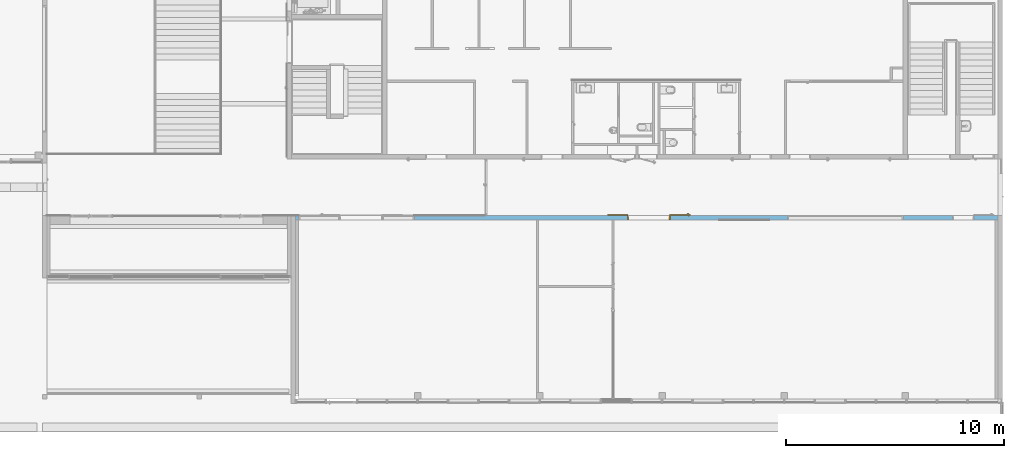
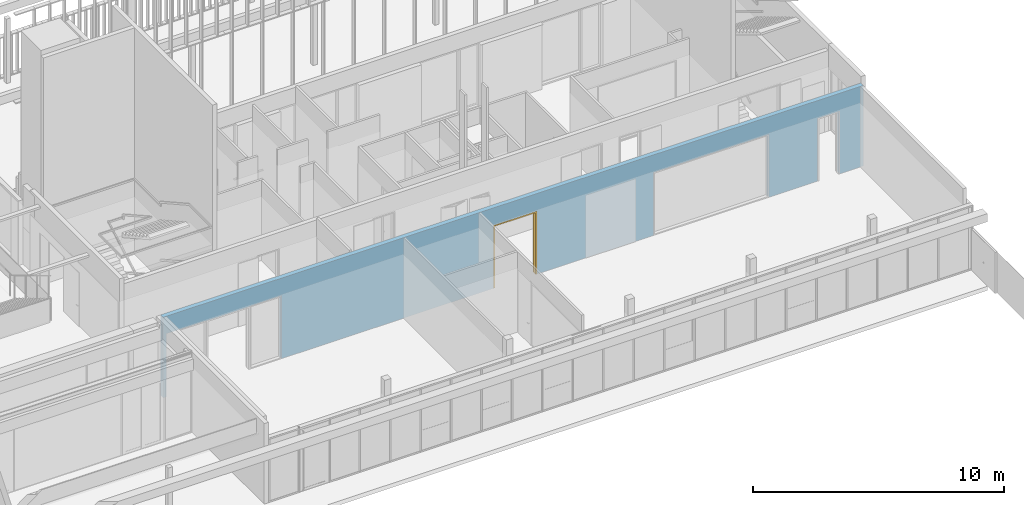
# One storey, part 224 of 240: 1 door, 6 openings, plus 1 element that does not belong to this part.
"""IFC2X3 building model written with IfcOpenShell, lengths in centimetres."""

from ifc_helpers import new_model, entity, si_unit, converted_unit, derived_unit, direction, frame, frame_2d, origin, place, context, subcontext, project, spatial, polyline, rectangle, extrude, clip, bounded_halfspace, faceted_brep, source, transform, mapped, material, material_list, layer, layer_set, layer_usage, type_object, type_shapes, element, fill, save


model = new_model("IFC2X3")

# Units and contexts
model_context = context("Model", 3, precision=0.001, world=origin(), true_north=direction((6.12303176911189e-17, 1.0)))
body_context = subcontext(model_context, "Body", "Model", "MODEL_VIEW")
ifc_project = project(units=[si_unit("LENGTHUNIT", "METRE", prefix="CENTI"), si_unit("AREAUNIT", "SQUARE_METRE"), si_unit("VOLUMEUNIT", "CUBIC_METRE"), converted_unit("PLANEANGLEUNIT", "DEGREE", entity("IfcRatioMeasure", 0.0174532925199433), si_unit("PLANEANGLEUNIT", "RADIAN"), dimensions=[0, 0, 0, 0, 0, 0, 0]), si_unit("MASSUNIT", "GRAM", prefix="KILO"), derived_unit("MASSDENSITYUNIT", [(si_unit("MASSUNIT", "GRAM", prefix="KILO"), 1), (si_unit("LENGTHUNIT", "METRE"), -3)]), si_unit("TIMEUNIT", "SECOND"), si_unit("FREQUENCYUNIT", "HERTZ"), si_unit("THERMODYNAMICTEMPERATUREUNIT", "DEGREE_CELSIUS"), derived_unit("THERMALTRANSMITTANCEUNIT", [(si_unit("MASSUNIT", "GRAM", prefix="KILO"), 1), (si_unit("THERMODYNAMICTEMPERATUREUNIT", "KELVIN"), -1), (si_unit("TIMEUNIT", "SECOND"), -3)]), derived_unit("VOLUMETRICFLOWRATEUNIT", [(si_unit("LENGTHUNIT", "METRE"), 3), (si_unit("TIMEUNIT", "SECOND"), -1)]), si_unit("ELECTRICCURRENTUNIT", "AMPERE"), si_unit("ELECTRICVOLTAGEUNIT", "VOLT"), si_unit("POWERUNIT", "WATT"), si_unit("FORCEUNIT", "NEWTON", prefix="KILO"), si_unit("ILLUMINANCEUNIT", "LUX"), si_unit("LUMINOUSFLUXUNIT", "LUMEN"), si_unit("LUMINOUSINTENSITYUNIT", "CANDELA"), derived_unit("USERDEFINED", [(si_unit("MASSUNIT", "GRAM", prefix="KILO"), -1), (si_unit("LENGTHUNIT", "METRE"), -2), (si_unit("TIMEUNIT", "SECOND"), 3), (si_unit("LUMINOUSFLUXUNIT", "LUMEN"), 1)]), derived_unit("LINEARVELOCITYUNIT", [(si_unit("LENGTHUNIT", "METRE"), 1), (si_unit("TIMEUNIT", "SECOND"), -1)]), si_unit("PRESSUREUNIT", "PASCAL"), derived_unit("USERDEFINED", [(si_unit("LENGTHUNIT", "METRE"), -2), (si_unit("MASSUNIT", "GRAM", prefix="KILO"), 1), (si_unit("TIMEUNIT", "SECOND"), -2)])], contexts=[model_context])

# Site, building, storey
site_placement = place(None, frame((-2781.94577612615, 7442.24238424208, 0.0)))
site = spatial("IfcSite", under=ifc_project, at=site_placement, Name="Default", CompositionType="ELEMENT")
building_placement = place(site_placement, origin())
building = spatial("IfcBuilding", under=site, at=building_placement, CompositionType="ELEMENT")
storey_placement = place(building_placement, origin())
storey = spatial("IfcBuildingStorey", under=building, at=storey_placement, Name="N00 - COO", CompositionType="ELEMENT", Elevation=0.0)

# Wall, openings, door
ifc_material_1 = material(Name="01 - Maçonnerie")
ifc_layer = layer(ifc_material_1, 20.0)
ifc_layer_set = layer_set([ifc_layer], Name="Mur de base:04 - Structure - béton - 20cm")
ifc_layer_usage = layer_usage(ifc_layer_set, "AXIS2", "NEGATIVE", 10.0)
wall_type = type_object("IfcWallType", Name="Mur de base:04 - Structure - béton - 20cm", PredefinedType="STANDARD", material=ifc_layer_set)
wall_placement = place(building_placement, frame((-3629.49987968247, -2200.15656731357, 0.0)))
wall = element("IfcWallStandardCase", 1, at=wall_placement, inside=storey, type_object=wall_type, material=ifc_layer_usage, Name="Mur de base:04 - Structure - béton - 20cm", ObjectType="Mur de base:04 - Structure - béton - 20cm", context=body_context, shape_type="Clipping", body=[
    clip(extrude(rectangle(XDim=3219.49999684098, YDim=19.9999999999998, at=frame_2d((1609.74999842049, -7.63833440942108e-14), x_axis=(-1.0, 0.0))), origin(), (0.0, 0.0, 1.0), 391.0), bounded_halfspace(frame((0.0, -10.0, 391.0), z_axis=(0.0, 0.0, -1.0), x_axis=(0.0, 1.0, 0.0)), True, frame((0.0, -10.0, 391.0)), polyline([(0.0, 0.0), (15.2999999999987, 0.0), (1104.50000207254, 0.0), (1114.50000207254, 0.0), (1450.3, 0.0), (1460.3, 0.0), (3204.19999684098, 0.0), (3219.49999684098, 0.0), (3219.49999684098, 20.0), (0.0, 20.0), (0.0, 0.0)]))),
])
opening_1_placement = place(wall_placement, frame((201.699996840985, 10.0, 0.0)))
element("IfcOpeningElement", 2, at=opening_1_placement, cuts=wall, Name="châssis intérieur vitré:châssis intérieur vitré (h=306):1", ObjectType="Opening", context=body_context, shape_type="SweptSolid", body=[
    extrude(rectangle(XDim=306.0, YDim=186.511887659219, at=frame_2d((153.0, 93.2559438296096), x_axis=(1.0, 0.0))), frame((0.0, 0.0, 0.0), z_axis=(0.0, -1.0, 0.0), x_axis=(0.0, 0.0, 1.0)), (0.0, 0.0, 1.0), 20.0),
])
opening_2_placement = place(wall_placement, frame((201.699996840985, -10.0, 0.0)))
element("IfcOpeningElement", 3, at=opening_2_placement, cuts=wall, Name="Int. Double:PV (1.90m x 3.00m):1", ObjectType="Opening", context=body_context, shape_type="SweptSolid", body=[
    extrude(rectangle(XDim=304.500000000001, YDim=197.0, at=frame_2d((152.250000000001, 98.5), x_axis=(1.0, 0.0))), frame((0.0, 0.0, 0.0), z_axis=(0.0, 1.0, 0.0), x_axis=(0.0, 0.0, 1.0)), (0.0, 0.0, 1.0), 20.0),
])
opening_3_placement = place(wall_placement, frame((544.500002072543, 10.0, 0.0)))
element("IfcOpeningElement", 4, at=opening_3_placement, cuts=wall, Name="châssis intérieur vitré:châssis intérieur vitré (h=306):1", ObjectType="Opening", context=body_context, shape_type="SweptSolid", body=[
    extrude(rectangle(XDim=306.0, YDim=145.800005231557, at=frame_2d((153.0, 72.9000026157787), x_axis=(1.0, 0.0))), frame((0.0, 0.0, 0.0), z_axis=(0.0, -1.0, 0.0), x_axis=(0.0, 0.0, 1.0)), (0.0, 0.0, 1.0), 20.0),
])
opening_4_placement = place(wall_placement, frame((1520.3, -10.0, 0.0)))
opening_4 = element("IfcOpeningElement", 5, at=opening_4_placement, cuts=wall, Name="Int. Double:PV (1.90m x 3.00m):1", ObjectType="Opening", context=body_context, shape_type="SweptSolid", body=[
    extrude(rectangle(XDim=304.500000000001, YDim=197.0, at=frame_2d((152.250000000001, 98.5), x_axis=(1.0, 0.0))), frame((0.0, 0.0, 0.0), z_axis=(0.0, 1.0, 0.0), x_axis=(0.0, 0.0, 1.0)), (0.0, 0.0, 1.0), 20.0),
])
opening_5_placement = place(wall_placement, frame((3009.49999684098, -10.0, 0.0)))
element("IfcOpeningElement", 6, at=opening_5_placement, cuts=wall, Name="Int. Simple:PV (0.93m x 3.00m):1", ObjectType="Opening", context=body_context, shape_type="SweptSolid", body=[
    extrude(rectangle(XDim=304.500000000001, YDim=99.9999999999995, at=frame_2d((152.250000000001, 49.9999999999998), x_axis=(1.0, 0.0))), frame((0.0, 0.0, 0.0), z_axis=(0.0, 1.0, 0.0), x_axis=(0.0, 0.0, 1.0)), (0.0, 0.0, 1.0), 20.0),
])
opening_6_placement = place(wall_placement, frame((2784.50000199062, 10.0, 0.0)))
element("IfcOpeningElement", 7, at=opening_6_placement, cuts=wall, Name="châssis intérieur vitré:châssis intérieur vitré (h=306):1", ObjectType="Opening", context=body_context, shape_type="SweptSolid", body=[
    extrude(rectangle(XDim=306.0, YDim=530.0, at=frame_2d((153.0, 265.0), x_axis=(1.0, 0.0))), frame((0.0, 0.0, 0.0), z_axis=(0.0, -1.0, 0.0), x_axis=(0.0, 0.0, 1.0)), (0.0, 0.0, 1.0), 20.0),
])
ifc_material_2 = material(Name="Bois - Panneau de porte")
ifc_material_3 = material(Name="Finition Peinture - Blanc satiné")
ifc_material_4 = material(Name="Bois - Cadre de porte")
ifc_material_list_1 = material_list([ifc_material_2, ifc_material_3, ifc_material_4])
ifc_material_list_2 = material_list([ifc_material_2, ifc_material_3, ifc_material_4])
door_style = type_object("IfcDoorStyle", Name="PV (1.90m x 3.00m)", ConstructionType="NOTDEFINED", OperationType="DOUBLE_DOOR_SINGLE_SWING", ParameterTakesPrecedence=False, Sizeable=False, material=ifc_material_list_2)
shared_shape = source(origin(), body_context, "Body", "Brep", [
    faceted_brep([(295.500000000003, -4.0, 301.0), (200.500000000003, -4.0, 301.0), (200.500000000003, -4.0, 0.0), (295.500000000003, -4.0, 0.0), (295.500000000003, 0.0, 301.0), (295.500000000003, 0.0, 0.0), (200.500000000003, 0.0, 0.0), (200.500000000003, 0.0, 301.0)], [[[0, 1, 2, 3]], [[4, 5, 6, 7]], [[1, 0, 4, 7]], [[2, 1, 7, 6]], [[3, 2, 6, 5]], [[0, 3, 5, 4]]]),
    faceted_brep([(-80.4999999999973, 0.499999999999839, 87.0), (-80.4999999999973, 0.499999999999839, 108.0), (-79.5352761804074, 0.499999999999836, 108.399601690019), (-78.4999999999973, 0.499999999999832, 108.535898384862), (-77.4647238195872, 0.499999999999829, 108.399601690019), (-76.4999999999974, 0.499999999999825, 108.0), (-76.4999999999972, 0.499999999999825, 87.0), (-77.4647238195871, 0.499999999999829, 86.6003983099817), (-78.4999999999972, 0.499999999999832, 86.464101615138), (-79.5352761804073, 0.499999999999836, 86.6003983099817), (-80.4999999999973, 0.0, 108.0), (-80.4999999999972, 0.0, 87.0), (-79.5352761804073, 0.0, 86.6003983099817), (-78.4999999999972, 0.0, 86.464101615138), (-77.4647238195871, 0.0, 86.6003983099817), (-76.4999999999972, 0.0, 87.0), (-76.4999999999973, 0.0, 108.0), (-77.4647238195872, 0.0, 108.399601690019), (-78.4999999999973, 0.0, 108.535898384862), (-79.5352761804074, 0.0, 108.399601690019)], [[[0, 1, 2, 3, 4, 5, 6, 7, 8, 9]], [[10, 11, 12, 13, 14, 15, 16, 17, 18, 19]], [[9, 12, 11, 0]], [[8, 13, 12, 9]], [[7, 14, 13, 8]], [[7, 6, 15, 14]], [[15, 6, 5, 16]], [[4, 17, 16, 5]], [[3, 18, 17, 4]], [[2, 19, 18, 3]], [[2, 1, 10, 19]], [[11, 10, 1, 0]]]),
    faceted_brep([(-80.4999999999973, -4.0, 87.0), (-80.4999999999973, -4.0, 108.0), (-79.5352761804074, -4.0, 108.399601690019), (-78.4999999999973, -4.0, 108.535898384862), (-77.4647238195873, -4.0, 108.399601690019), (-76.4999999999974, -4.0, 108.0), (-76.4999999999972, -4.0, 87.0), (-77.4647238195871, -4.0, 86.6003983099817), (-78.4999999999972, -4.0, 86.464101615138), (-79.5352761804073, -4.0, 86.6003983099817), (-78.4999999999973, -4.50000000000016, 108.535898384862), (-79.5352761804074, -4.50000000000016, 108.399601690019), (-80.4999999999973, -4.50000000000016, 108.0), (-80.4999999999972, -4.50000000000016, 87.0), (-79.5352761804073, -4.50000000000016, 86.6003983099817), (-78.4999999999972, -4.50000000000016, 86.464101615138), (-77.4647238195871, -4.50000000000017, 86.6003983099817), (-76.4999999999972, -4.50000000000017, 87.0), (-76.4999999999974, -4.50000000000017, 108.0), (-77.4647238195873, -4.50000000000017, 108.399601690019)], [[[0, 1, 2, 3, 4, 5, 6, 7, 8, 9]], [[10, 11, 12, 13, 14, 15, 16, 17, 18, 19]], [[4, 19, 18, 5]], [[3, 10, 19, 4]], [[2, 11, 10, 3]], [[2, 1, 12, 11]], [[13, 12, 1, 0]], [[9, 14, 13, 0]], [[8, 15, 14, 9]], [[7, 16, 15, 8]], [[7, 6, 17, 16]], [[17, 6, 5, 18]]]),
    faceted_brep([(-78.2974701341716, 0.499999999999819, 100.778044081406), (-78.7025298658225, 0.49999999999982, 100.778044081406), (-79.0999999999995, 0.499999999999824, 100.699999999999), (-79.1000000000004, 0.499999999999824, 99.2999999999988), (-78.7025298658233, 0.49999999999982, 99.221955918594), (-78.2974701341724, 0.499999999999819, 99.2219559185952), (-77.8999999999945, 0.499999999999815, 99.3000000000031), (-77.8999999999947, 0.499999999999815, 100.7), (-78.7025298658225, 3.10045754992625, 100.778044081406), (-79.0999999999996, 3.26509507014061, 100.7), (-78.2974701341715, 2.93267631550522, 100.778044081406), (-76.9298602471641, 4.30028620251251, 100.778044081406), (-77.0976414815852, 4.70534593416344, 100.778044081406), (-77.8999999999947, 2.76803879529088, 100.7), (-77.8999999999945, 2.76803879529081, 99.3000000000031), (-78.2974701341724, 2.93267631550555, 99.2219559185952), (-78.7025298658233, 3.10045754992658, 99.221955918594), (-77.0976414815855, 4.70534593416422, 99.221955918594), (-76.9298602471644, 4.3002862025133, 99.2219559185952), (-79.1000000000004, 3.26509507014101, 99.2999999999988), (-77.2622790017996, 5.10281606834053, 100.7), (-76.7652227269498, 3.9028160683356, 100.7), (-76.7652227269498, 3.90281606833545, 99.3000000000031), (-77.2622790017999, 5.10281606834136, 99.2999999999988), (-68.4981359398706, 5.10281606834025, 100.7), (-68.4981359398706, 4.70534593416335, 100.778044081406), (-68.4981359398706, 4.30028620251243, 100.778044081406), (-68.4981359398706, 3.90281606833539, 100.699999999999), (-68.4981359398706, 3.90281606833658, 99.3000000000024), (-68.4981359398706, 4.30028620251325, 99.2219559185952), (-68.4981359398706, 4.70534593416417, 99.221955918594), (-68.4981359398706, 5.10281606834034, 99.2999999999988), (-72.7139980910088, 4.50281606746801, 100.78786867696), (-73.2692302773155, 5.10281606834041, 100.7), (-72.6316793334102, 3.90281606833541, 100.7), (-72.6316793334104, 3.90281606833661, 99.3000000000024), (-72.7139981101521, 4.50281607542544, 99.2121313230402), (-73.2692310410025, 5.10281606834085, 99.2999999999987)], [[[0, 1, 2, 3, 4, 5, 6, 7]], [[2, 1, 8, 9]], [[1, 0, 10, 11, 12, 8]], [[0, 7, 13, 10]], [[14, 13, 7, 6]], [[5, 15, 14, 6]], [[5, 4, 16, 17, 18, 15]], [[3, 19, 16, 4]], [[9, 19, 3, 2]], [[9, 8, 12, 20]], [[10, 13, 21, 11]], [[22, 21, 13, 14]], [[14, 15, 18, 22]], [[16, 19, 23, 17]], [[20, 23, 19, 9]], [[24, 25, 26, 27, 28, 29, 30, 31]], [[32, 25, 33]], [[33, 25, 24]], [[33, 20, 12]], [[11, 34, 32]], [[34, 11, 21]], [[27, 26, 34]], [[32, 26, 25]], [[32, 34, 26]], [[32, 33, 12]], [[11, 32, 12]], [[21, 22, 35, 28, 27, 34]], [[36, 29, 35]], [[30, 36, 37]], [[18, 35, 22]], [[29, 28, 35]], [[30, 37, 31]], [[37, 17, 23]], [[36, 17, 37]], [[36, 18, 17]], [[36, 35, 18]], [[29, 36, 30]], [[23, 20, 33, 24, 31, 37]]]),
    faceted_brep([(-78.2974701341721, -4.50000000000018, 99.2219559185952), (-78.702529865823, -4.50000000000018, 99.221955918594), (-79.0999999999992, -4.50000000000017, 99.2999999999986), (-79.0999999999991, -4.50000000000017, 100.7), (-78.7025298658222, -4.50000000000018, 100.778044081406), (-78.2974701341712, -4.50000000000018, 100.778044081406), (-77.8999999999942, -4.50000000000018, 100.7), (-77.8999999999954, -4.50000000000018, 99.3000000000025), (-77.8999999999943, -6.74852045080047, 100.7), (-77.8999999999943, -6.74852045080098, 99.3000000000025), (-78.2974701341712, -6.91315797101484, 100.778044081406), (-78.7025298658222, -7.08093920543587, 100.778044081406), (-77.0838906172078, -8.69957845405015, 100.778044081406), (-76.9161093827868, -8.29451872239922, 100.778044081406), (-79.0999999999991, -7.2455767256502, 100.7), (-79.0999999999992, -7.24557672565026, 99.2999999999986), (-78.7025298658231, -7.08093920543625, 99.221955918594), (-78.2974701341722, -6.91315797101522, 99.2219559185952), (-76.9161093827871, -8.29451872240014, 99.2219559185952), (-77.0838906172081, -8.69957845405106, 99.221955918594), (-76.7514718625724, -7.89704858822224, 100.7), (-76.7514718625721, -7.8970485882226, 99.3000000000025), (-77.2485281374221, -9.09704858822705, 100.7), (-77.2485281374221, -9.09704858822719, 99.2999999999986), (-68.4954216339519, -8.29451872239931, 100.778044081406), (-68.4954216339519, -8.69957845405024, 100.778044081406), (-68.4954216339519, -9.09704858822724, 100.7), (-68.4954216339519, -9.09704858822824, 99.2999999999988), (-68.4954216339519, -8.69957845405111, 99.221955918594), (-68.4954216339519, -8.29451872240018, 99.2219559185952), (-68.4954216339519, -7.89704858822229, 99.3000000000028), (-68.4954216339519, -7.89704858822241, 100.7), (-72.6234467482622, -7.89704858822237, 100.7), (-72.623447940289, -7.89704858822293, 99.3000000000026), (-72.7057655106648, -8.49704858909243, 100.78786867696), (-73.2554794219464, -9.09704858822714, 100.7), (-73.2554795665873, -9.09704858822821, 99.2999999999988), (-72.7057654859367, -8.49704858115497, 99.2121313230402)], [[[0, 1, 2, 3, 4, 5, 6, 7]], [[8, 9, 7, 6]], [[5, 10, 8, 6]], [[5, 4, 11, 12, 13, 10]], [[3, 14, 11, 4]], [[14, 3, 2, 15]], [[2, 1, 16, 15]], [[1, 0, 17, 18, 19, 16]], [[0, 7, 9, 17]], [[20, 21, 9, 8]], [[8, 10, 13, 20]], [[14, 22, 12, 11]], [[23, 22, 14, 15]], [[15, 16, 19, 23]], [[17, 9, 21, 18]], [[24, 25, 26, 27, 28, 29, 30, 31]], [[21, 20, 32, 31, 30, 33]], [[34, 24, 32]], [[25, 34, 35]], [[13, 32, 20]], [[24, 31, 32]], [[25, 35, 26]], [[35, 12, 22]], [[34, 12, 35]], [[34, 13, 12]], [[34, 32, 13]], [[24, 34, 25]], [[22, 23, 36, 27, 26, 35]], [[37, 28, 36]], [[36, 28, 27]], [[36, 23, 19]], [[18, 33, 37]], [[33, 18, 21]], [[30, 29, 33]], [[37, 29, 28]], [[37, 33, 29]], [[37, 36, 19]], [[18, 37, 19]]]),
    faceted_brep([(-84.4999999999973, -4.0, 301.0), (-84.4999999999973, -4.0, 0.0), (10.5000000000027, -4.0, 0.0), (10.5000000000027, -4.0, 301.0), (-84.4999999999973, 0.0, 301.0), (10.5000000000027, 0.0, 301.0), (10.5000000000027, 0.0, 0.0), (-84.4999999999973, 0.0, 0.0)], [[[0, 1, 2, 3]], [[4, 5, 6, 7]], [[3, 5, 4, 0]], [[2, 6, 5, 3]], [[1, 7, 6, 2]], [[0, 4, 7, 1]]]),
    faceted_brep([(204.0, 0.0, 0.0), (200.500000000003, 0.0, 0.0), (200.500000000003, 4.0, 0.0), (199.0, 4.0, 0.0), (199.0, 20.0, 0.0), (204.0, 20.0, 0.0), (204.0, 20.0, 304.500000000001), (204.0, 0.0, 304.500000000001), (199.0, 20.0, 299.5), (12.0, 20.0, 299.5), (12.0, 20.0, 0.0), (7.0, 20.0, 0.0), (7.0, 20.0, 304.500000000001), (199.0, 4.0, 299.5), (200.500000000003, 4.0, 301.0), (10.5000000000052, 4.0, 301.0), (10.5000000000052, 4.0, 0.0), (12.0, 4.0, 0.0), (12.0, 4.0, 299.5), (200.500000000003, 0.0, 301.0), (7.0, 0.0, 304.500000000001), (7.0, 0.0, 0.0), (10.5000000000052, 0.0, 0.0), (10.5000000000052, 0.0, 301.0)], [[[0, 1, 2, 3, 4, 5]], [[5, 6, 7, 0]], [[4, 8, 9, 10, 11, 12, 6, 5]], [[3, 13, 8, 4]], [[2, 14, 15, 16, 17, 18, 13, 3]], [[1, 19, 14, 2]], [[0, 7, 20, 21, 22, 23, 19, 1]], [[12, 11, 21, 20]], [[21, 11, 10, 17, 16, 22]], [[18, 17, 10, 9]], [[23, 22, 16, 15]], [[6, 12, 20, 7]], [[13, 18, 9, 8]], [[19, 23, 15, 14]]]),
    faceted_brep([(202.500000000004, 20.0, 0.0), (202.500000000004, 20.5000000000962, 0.0), (205.500000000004, 20.5000000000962, 0.0), (205.500000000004, 20.0, 0.0), (205.500000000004, 20.0, 306.0), (5.50000000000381, 20.0, 306.0), (5.50000000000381, 20.0, 0.0), (8.50000000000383, 20.0, 0.0), (8.50000000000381, 20.0, 303.0), (202.500000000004, 20.0, 303.0), (205.500000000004, 20.5000000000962, 306.0), (202.500000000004, 20.5000000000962, 303.0), (8.50000000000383, 20.5000000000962, 303.0), (8.50000000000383, 20.5000000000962, 0.0), (5.50000000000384, 20.5000000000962, 0.0), (5.50000000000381, 20.5000000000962, 306.0)], [[[0, 1, 2, 3]], [[3, 4, 5, 6, 7, 8, 9, 0]], [[2, 10, 4, 3]], [[1, 11, 12, 13, 14, 15, 10, 2]], [[0, 9, 11, 1]], [[8, 7, 13, 12]], [[7, 6, 14, 13]], [[15, 14, 6, 5]], [[10, 15, 5, 4]], [[9, 8, 12, 11]]]),
    faceted_brep([(205.500000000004, -0.500000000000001, 0.0), (205.500000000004, -0.500000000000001, 306.0), (5.50000000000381, -0.500000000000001, 306.0), (5.50000000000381, -0.500000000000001, 0.0), (8.50000000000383, -0.500000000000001, 0.0), (8.50000000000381, -0.500000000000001, 303.0), (202.500000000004, -0.500000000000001, 303.0), (202.500000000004, -0.500000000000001, 0.0), (205.500000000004, 0.0, 0.0), (205.500000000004, 0.0, 306.0), (202.500000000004, 0.0, 0.0), (202.500000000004, 0.0, 303.0), (8.50000000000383, 0.0, 303.0), (8.50000000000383, 0.0, 0.0), (5.50000000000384, 0.0, 0.0), (5.50000000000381, 0.0, 306.0)], [[[0, 1, 2, 3, 4, 5, 6, 7]], [[8, 9, 1, 0]], [[10, 11, 12, 13, 14, 15, 9, 8]], [[7, 6, 11, 10]], [[5, 4, 13, 12]], [[15, 14, 3, 2]], [[9, 15, 2, 1]], [[6, 5, 12, 11]], [[4, 3, 14, 13]], [[7, 10, 8, 0]]]),
])
type_shapes(door_style, [shared_shape])
door_placement = place(opening_4_placement, frame((204.0, 20.0, 0.0), z_axis=(0.0, 0.0, 1.0), x_axis=(-1.0, 0.0, 0.0)))
door = element("IfcDoor", 8, at=door_placement, inside=storey, type_object=door_style, material=ifc_material_list_1, Name="Int. Double:PV (1.90m x 3.00m)", ObjectType="Int. Double:PV (1.90m x 3.00m)", OverallHeight=304.500000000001, OverallWidth=197.0, context=body_context, shape_type="MappedRepresentation", body=[
    mapped(shared_shape, transform((0.0, 0.0, 0.0), scale=1.0)),
])
fill(opening_4, door)

save(model, "model.ifc")
